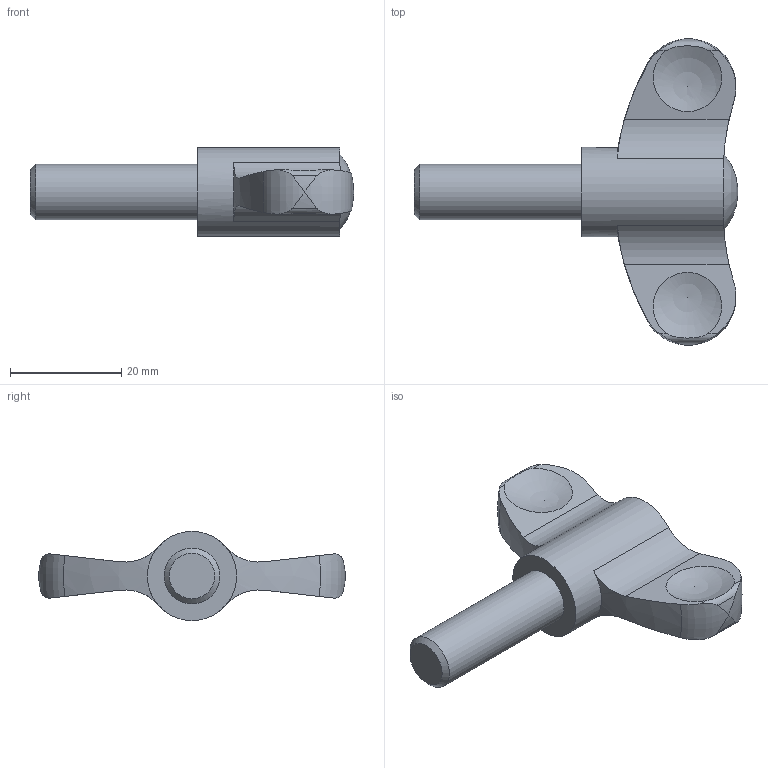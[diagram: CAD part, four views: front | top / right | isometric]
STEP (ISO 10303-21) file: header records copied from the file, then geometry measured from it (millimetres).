
FILE_DESCRIPTION( ( 'STEP AP203' ), '1' );
FILE_NAME( 'C:/Temp/Ganter_Step_05_03_2020/data/2_2/gn_633/Wing nut GN 633-55-M10-30-DRT.stp', '2020-03-05T12:21:08', ( 'License CC BY-ND 4.0' ), ( 'CADENAS' ), ' ', 'PARTsolutions', ' ' );
FILE_SCHEMA( ( 'CONFIG_CONTROL_DESIGN' ) );
Length unit declared in the file: millimetre
Products named in the file (1): _Wing nut GN 633-55-M10-30-DRT
Bounding box: 58 x 55 x 16 mm (x, y, z)
Volume: 11434.8 mm3; surface area: 4355 mm2
Topology: 1 solids, 1 shells, 31 faces, 97 edges, 64 vertices
Faces by surface type: cylinder 14, plane 6, bspline 4, sphere 4, torus 2, cone 1
Full cylindrical faces by diameter (mm): 10 x1, 16 x1
Entity records: 1486 total; most frequent: CARTESIAN_POINT 754, ORIENTED_EDGE 154, DIRECTION 110, EDGE_CURVE 77, VERTEX_POINT 59, AXIS2_PLACEMENT_3D 45, B_SPLINE_CURVE_WITH_KNOTS 40, EDGE_LOOP 36
